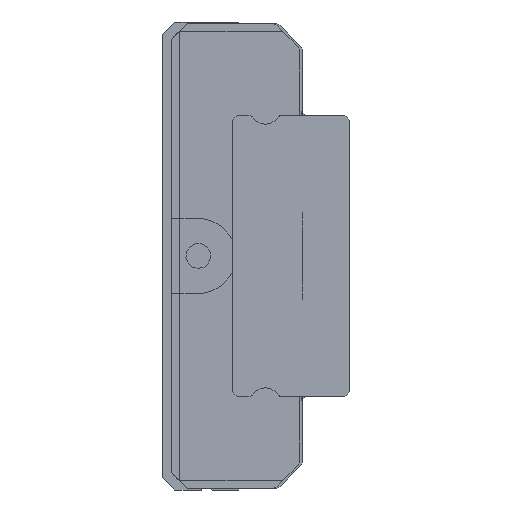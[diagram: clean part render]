
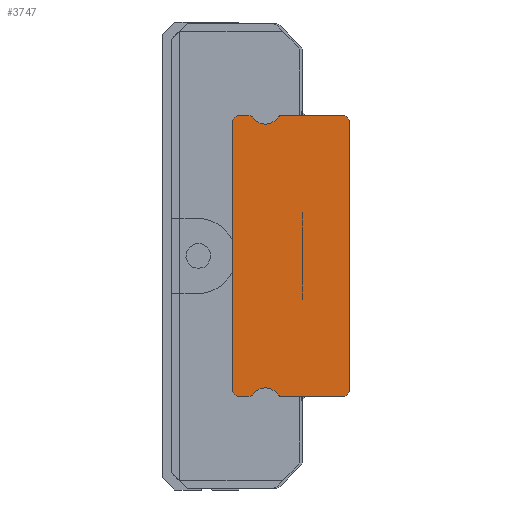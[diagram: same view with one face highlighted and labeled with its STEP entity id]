
A CAD part, left-side view. The second image highlights one B-rep face of the part: STEP entity #3747.
In plain terms, the highlighted planar face has unit normal (-1, 0, 0).
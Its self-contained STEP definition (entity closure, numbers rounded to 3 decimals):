
#40=CIRCLE('',#3995,0.15);
#42=CIRCLE('',#3998,1.);
#44=CIRCLE('',#4001,0.15);
#80=CIRCLE('',#4043,0.15);
#82=CIRCLE('',#4046,1.);
#84=CIRCLE('',#4049,0.15);
#493=ORIENTED_EDGE('',*,*,#1329,.F.);
#494=ORIENTED_EDGE('',*,*,#1443,.F.);
#495=ORIENTED_EDGE('',*,*,#1406,.F.);
#496=ORIENTED_EDGE('',*,*,#1403,.F.);
#497=ORIENTED_EDGE('',*,*,#1400,.F.);
#498=ORIENTED_EDGE('',*,*,#1397,.T.);
#499=ORIENTED_EDGE('',*,*,#1394,.F.);
#500=ORIENTED_EDGE('',*,*,#1391,.F.);
#501=ORIENTED_EDGE('',*,*,#1388,.F.);
#502=ORIENTED_EDGE('',*,*,#1385,.F.);
#503=ORIENTED_EDGE('',*,*,#1348,.F.);
#504=ORIENTED_EDGE('',*,*,#1345,.F.);
#505=ORIENTED_EDGE('',*,*,#1342,.F.);
#506=ORIENTED_EDGE('',*,*,#1339,.T.);
#507=ORIENTED_EDGE('',*,*,#1336,.F.);
#508=ORIENTED_EDGE('',*,*,#1333,.F.);
#1329=EDGE_CURVE('',#1821,#1822,#2193,.T.);
#1333=EDGE_CURVE('',#1822,#1825,#2197,.T.);
#1336=EDGE_CURVE('',#1825,#1827,#40,.T.);
#1339=EDGE_CURVE('',#1829,#1827,#42,.T.);
#1342=EDGE_CURVE('',#1829,#1831,#44,.T.);
#1345=EDGE_CURVE('',#1831,#1833,#2203,.T.);
#1348=EDGE_CURVE('',#1833,#1835,#2206,.T.);
#1385=EDGE_CURVE('',#1835,#1871,#2209,.T.);
#1388=EDGE_CURVE('',#1871,#1873,#2212,.T.);
#1391=EDGE_CURVE('',#1873,#1875,#2215,.T.);
#1394=EDGE_CURVE('',#1875,#1877,#80,.T.);
#1397=EDGE_CURVE('',#1879,#1877,#82,.T.);
#1400=EDGE_CURVE('',#1879,#1881,#84,.T.);
#1403=EDGE_CURVE('',#1881,#1883,#2221,.T.);
#1406=EDGE_CURVE('',#1883,#1885,#2224,.T.);
#1443=EDGE_CURVE('',#1885,#1821,#2227,.T.);
#1821=VERTEX_POINT('',#5619);
#1822=VERTEX_POINT('',#5620);
#1825=VERTEX_POINT('',#5628);
#1827=VERTEX_POINT('',#5634);
#1829=VERTEX_POINT('',#5640);
#1831=VERTEX_POINT('',#5646);
#1833=VERTEX_POINT('',#5652);
#1835=VERTEX_POINT('',#5658);
#1871=VERTEX_POINT('',#5732);
#1873=VERTEX_POINT('',#5738);
#1875=VERTEX_POINT('',#5744);
#1877=VERTEX_POINT('',#5750);
#1879=VERTEX_POINT('',#5756);
#1881=VERTEX_POINT('',#5762);
#1883=VERTEX_POINT('',#5768);
#1885=VERTEX_POINT('',#5774);
#2193=LINE('',#5618,#2477);
#2197=LINE('',#5627,#2481);
#2203=LINE('',#5651,#2487);
#2206=LINE('',#5657,#2490);
#2209=LINE('',#5731,#2493);
#2212=LINE('',#5737,#2496);
#2215=LINE('',#5743,#2499);
#2221=LINE('',#5767,#2505);
#2224=LINE('',#5773,#2508);
#2227=LINE('',#5847,#2511);
#2477=VECTOR('',#4442,1000.);
#2481=VECTOR('',#4448,1000.);
#2487=VECTOR('',#4474,1000.);
#2490=VECTOR('',#4479,1000.);
#2493=VECTOR('',#4552,1000.);
#2496=VECTOR('',#4557,1000.);
#2499=VECTOR('',#4562,1000.);
#2505=VECTOR('',#4588,1000.);
#2508=VECTOR('',#4593,1000.);
#2511=VECTOR('',#4666,1000.);
#2846=EDGE_LOOP('',(#493,#494,#495,#496,#497,#498,#499,#500,#501,#502,#503,
#504,#505,#506,#507,#508));
#3264=FACE_BOUND('',#2846,.T.);
#3610=PLANE('',#4089);
#3747=ADVANCED_FACE('',(#3264),#3610,.F.);
#3995=AXIS2_PLACEMENT_3D('',#5633,#4453,#4454);
#3998=AXIS2_PLACEMENT_3D('',#5639,#4460,#4461);
#4001=AXIS2_PLACEMENT_3D('',#5645,#4467,#4468);
#4043=AXIS2_PLACEMENT_3D('',#5749,#4567,#4568);
#4046=AXIS2_PLACEMENT_3D('',#5755,#4574,#4575);
#4049=AXIS2_PLACEMENT_3D('',#5761,#4581,#4582);
#4089=AXIS2_PLACEMENT_3D('',#5850,#4670,#4671);
#4442=DIRECTION('',(0.,-0.707,0.707));
#4448=DIRECTION('',(0.,-1.,0.));
#4453=DIRECTION('',(1.,0.,0.));
#4454=DIRECTION('',(0.,0.,-1.));
#4460=DIRECTION('',(1.,0.,0.));
#4461=DIRECTION('',(0.,0.,-1.));
#4467=DIRECTION('',(1.,0.,0.));
#4468=DIRECTION('',(0.,0.,-1.));
#4474=DIRECTION('',(0.,-1.,0.));
#4479=DIRECTION('',(0.,-0.707,-0.707));
#4552=DIRECTION('',(0.,0.,-1.));
#4557=DIRECTION('',(0.,0.707,-0.707));
#4562=DIRECTION('',(0.,1.,0.));
#4567=DIRECTION('',(1.,0.,0.));
#4568=DIRECTION('',(0.,0.,-1.));
#4574=DIRECTION('',(1.,0.,0.));
#4575=DIRECTION('',(0.,0.,-1.));
#4581=DIRECTION('',(1.,0.,0.));
#4582=DIRECTION('',(0.,0.,-1.));
#4588=DIRECTION('',(0.,1.,0.));
#4593=DIRECTION('',(0.,0.707,0.707));
#4666=DIRECTION('',(0.,0.,1.));
#4670=DIRECTION('',(1.,0.,0.));
#4671=DIRECTION('',(0.,0.,-1.));
#5618=CARTESIAN_POINT('',(-5.,7.5,8.7));
#5619=CARTESIAN_POINT('',(-5.,7.5,8.7));
#5620=CARTESIAN_POINT('',(-5.,7.2,9.));
#5627=CARTESIAN_POINT('',(-5.,7.2,9.));
#5628=CARTESIAN_POINT('',(-5.,6.381,9.));
#5633=CARTESIAN_POINT('',(-5.,6.381,8.85));
#5634=CARTESIAN_POINT('',(-5.,6.253,8.928));
#5639=CARTESIAN_POINT('',(-5.,5.4,9.45));
#5640=CARTESIAN_POINT('',(-5.,4.547,8.928));
#5645=CARTESIAN_POINT('',(-5.,4.419,8.85));
#5646=CARTESIAN_POINT('',(-5.,4.419,9.));
#5651=CARTESIAN_POINT('',(-5.,4.419,9.));
#5652=CARTESIAN_POINT('',(-5.,0.3,9.));
#5657=CARTESIAN_POINT('',(-5.,0.3,9.));
#5658=CARTESIAN_POINT('',(-5.,0.,8.7));
#5731=CARTESIAN_POINT('',(-5.,0.,8.7));
#5732=CARTESIAN_POINT('',(-5.,0.,-8.7));
#5737=CARTESIAN_POINT('',(-5.,0.,-8.7));
#5738=CARTESIAN_POINT('',(-5.,0.3,-9.));
#5743=CARTESIAN_POINT('',(-5.,0.3,-9.));
#5744=CARTESIAN_POINT('',(-5.,4.419,-9.));
#5749=CARTESIAN_POINT('',(-5.,4.419,-8.85));
#5750=CARTESIAN_POINT('',(-5.,4.547,-8.928));
#5755=CARTESIAN_POINT('',(-5.,5.4,-9.45));
#5756=CARTESIAN_POINT('',(-5.,6.253,-8.928));
#5761=CARTESIAN_POINT('',(-5.,6.381,-8.85));
#5762=CARTESIAN_POINT('',(-5.,6.381,-9.));
#5767=CARTESIAN_POINT('',(-5.,6.381,-9.));
#5768=CARTESIAN_POINT('',(-5.,7.2,-9.));
#5773=CARTESIAN_POINT('',(-5.,7.2,-9.));
#5774=CARTESIAN_POINT('',(-5.,7.5,-8.7));
#5847=CARTESIAN_POINT('',(-5.,7.5,-8.7));
#5850=CARTESIAN_POINT('',(-5.,6.381,8.85));
